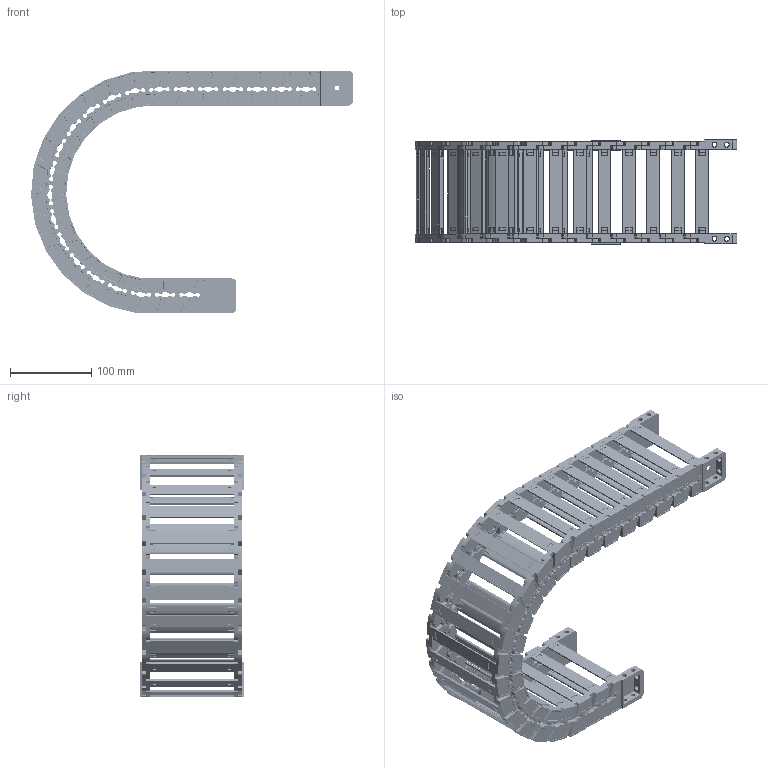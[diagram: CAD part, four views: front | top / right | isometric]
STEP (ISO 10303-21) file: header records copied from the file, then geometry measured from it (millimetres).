
FILE_DESCRIPTION((''),'2;1');
FILE_NAME('JY-35X103-R125_ASM','2025-01-05T19:47:02',('admin'),(''),'CREO PARAMETRIC BY PTC INC, 2021023','CREO PARAMETRIC BY PTC INC, 2021023','');
FILE_SCHEMA(('CONFIG_CONTROL_DESIGN'));
Length unit declared in the file: millimetre
Products named in the file (11): 35XL-L; YP; 35XL-R; ASM0001_ASM; 35-LTT-A-L; 35-LTT-A-R; 35XL-LTT-A_ASM; 35-LTT-B-L; 35-LTT-B-R; 35XL-LTT-B_ASM; JY-35X103-R125_ASM
Assembly tree (35 placements, depth 3):
  JY-35X103-R125_ASM
    ASM0001_ASM  x21
      35XL-L
      YP
      35XL-R
    35XL-LTT-A_ASM
      35-LTT-A-L
      YP  x2
      35-LTT-A-R
    35XL-LTT-B_ASM
      35-LTT-B-L
      YP  x2
      35-LTT-B-R
Bounding box: 395.09 x 127.5 x 298.23 mm (x, y, z)
Volume: 737209.9 mm3; surface area: 447712.3 mm2
Topology: 92 solids, 92 shells, 7504 faces, 22500 edges, 15188 vertices
Faces by surface type: plane 4246, cylinder 2466, cone 484, extrusion 176, bspline 132
Entity records: 27890 total; most frequent: CARTESIAN_POINT 6168, ORIENTED_EDGE 4640, DIRECTION 4365, EDGE_CURVE 2320, VERTEX_POINT 1568, AXIS2_PLACEMENT_3D 1474, VECTOR 1417, LINE 1401
